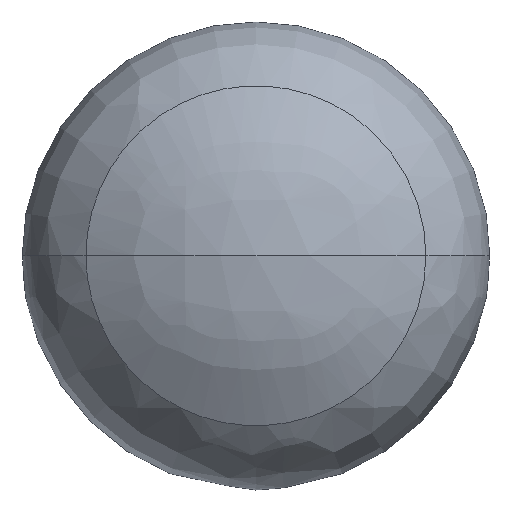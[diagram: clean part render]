
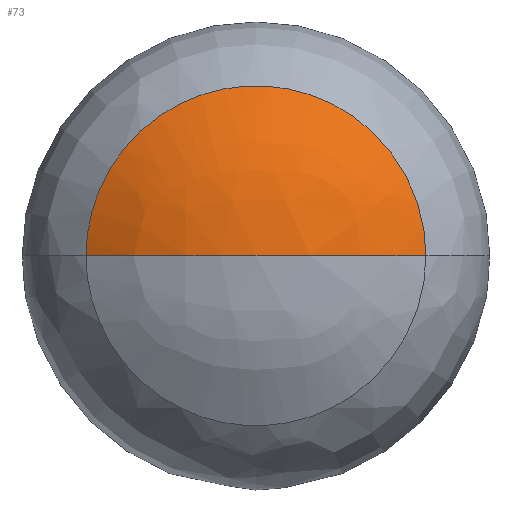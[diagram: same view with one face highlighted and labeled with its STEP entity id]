
A CAD part, top view. The second image highlights one B-rep face of the part: STEP entity #73.
In plain terms, the highlighted free-form (B-spline) face has degree [2, 2] with [9, 5] control points.
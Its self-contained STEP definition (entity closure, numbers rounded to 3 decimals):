
#73=ADVANCED_FACE('',(#278),#2682,.T.);
#278=FACE_OUTER_BOUND('',#483,.T.);
#483=EDGE_LOOP('',(#727,#728,#729));
#727=ORIENTED_EDGE('',*,*,#1563,.T.);
#728=ORIENTED_EDGE('',*,*,#1556,.T.);
#729=ORIENTED_EDGE('',*,*,#1557,.T.);
#1556=EDGE_CURVE('',#2388,#2389,#2122,.T.);
#1557=EDGE_CURVE('',#2389,#2387,#2123,.T.);
#1563=EDGE_CURVE('',#2387,#2388,#2129,.T.);
#2122=(
BOUNDED_CURVE()
B_SPLINE_CURVE(2,(#3735,#3736,#3737),.UNSPECIFIED.,.F.,.F.)
B_SPLINE_CURVE_WITH_KNOTS((3,3),(0.,82.577),.UNSPECIFIED.)
CURVE()
GEOMETRIC_REPRESENTATION_ITEM()
RATIONAL_B_SPLINE_CURVE((1.,0.959,1.))
REPRESENTATION_ITEM('')
);
#2123=(
BOUNDED_CURVE()
B_SPLINE_CURVE(2,(#3738,#3739,#3740),.UNSPECIFIED.,.F.,.F.)
B_SPLINE_CURVE_WITH_KNOTS((3,3),(0.,82.577),.UNSPECIFIED.)
CURVE()
GEOMETRIC_REPRESENTATION_ITEM()
RATIONAL_B_SPLINE_CURVE((1.,0.959,1.))
REPRESENTATION_ITEM('')
);
#2129=(
BOUNDED_CURVE()
B_SPLINE_CURVE(2,(#3762,#3763,#3764,#3765,#3766),.UNSPECIFIED.,.F.,.F.)
B_SPLINE_CURVE_WITH_KNOTS((3,2,3),(-245.243,-122.621,
0.),.UNSPECIFIED.)
CURVE()
GEOMETRIC_REPRESENTATION_ITEM()
RATIONAL_B_SPLINE_CURVE((1.,0.707,1.,0.707,1.))
REPRESENTATION_ITEM('')
);
#2387=VERTEX_POINT('',#3694);
#2388=VERTEX_POINT('',#3695);
#2389=VERTEX_POINT('',#3696);
#2682=(
BOUNDED_SURFACE()
B_SPLINE_SURFACE(2,2,((#3136,#3137,#3138,#3139,#3140),(#3141,#3142,#3143,
#3144,#3145),(#3146,#3147,#3148,#3149,#3150),(#3151,#3152,#3153,#3154,#3155),
(#3156,#3157,#3158,#3159,#3160),(#3161,#3162,#3163,#3164,#3165),(#3166,
#3167,#3168,#3169,#3170),(#3171,#3172,#3173,#3174,#3175),(#3176,#3177,#3178,
#3179,#3180)),.UNSPECIFIED.,.T.,.F.,.F.)
B_SPLINE_SURFACE_WITH_KNOTS((3,2,2,2,3),(3,2,3),(0.,224.624,449.248,
673.872,898.495),(0.,224.624,449.248),
 .UNSPECIFIED.)
GEOMETRIC_REPRESENTATION_ITEM()
RATIONAL_B_SPLINE_SURFACE(((1.,0.707,1.,0.707,1.),
(0.707,0.5,0.707,0.5,0.707),(1.,0.707,
1.,0.707,1.),(0.707,0.5,0.707,0.5,0.707),
(1.,0.707,1.,0.707,1.),(0.707,0.5,0.707,
0.5,0.707),(1.,0.707,1.,0.707,1.),(0.707,
0.5,0.707,0.5,0.707),(1.,0.707,1.,0.707,
1.)))
REPRESENTATION_ITEM('')
SURFACE()
);
#3136=CARTESIAN_POINT('',(0.,-32.743,-100.443));
#3137=CARTESIAN_POINT('',(143.,-32.743,-100.443));
#3138=CARTESIAN_POINT('',(143.,110.257,-100.443));
#3139=CARTESIAN_POINT('',(143.,253.257,-100.443));
#3140=CARTESIAN_POINT('',(0.,253.257,-100.443));
#3141=CARTESIAN_POINT('',(0.,-32.743,-100.443));
#3142=CARTESIAN_POINT('',(143.,-32.743,-243.443));
#3143=CARTESIAN_POINT('',(143.,110.257,-243.443));
#3144=CARTESIAN_POINT('',(143.,253.257,-243.443));
#3145=CARTESIAN_POINT('',(0.,253.257,-100.443));
#3146=CARTESIAN_POINT('',(0.,-32.743,-100.443));
#3147=CARTESIAN_POINT('',(0.,-32.743,-243.443));
#3148=CARTESIAN_POINT('',(0.,110.257,-243.443));
#3149=CARTESIAN_POINT('',(0.,253.257,-243.443));
#3150=CARTESIAN_POINT('',(0.,253.257,-100.443));
#3151=CARTESIAN_POINT('',(0.,-32.743,-100.443));
#3152=CARTESIAN_POINT('',(-143.,-32.743,-243.443));
#3153=CARTESIAN_POINT('',(-143.,110.257,-243.443));
#3154=CARTESIAN_POINT('',(-143.,253.257,-243.443));
#3155=CARTESIAN_POINT('',(0.,253.257,-100.443));
#3156=CARTESIAN_POINT('',(0.,-32.743,-100.443));
#3157=CARTESIAN_POINT('',(-143.,-32.743,-100.443));
#3158=CARTESIAN_POINT('',(-143.,110.257,-100.443));
#3159=CARTESIAN_POINT('',(-143.,253.257,-100.443));
#3160=CARTESIAN_POINT('',(0.,253.257,-100.443));
#3161=CARTESIAN_POINT('',(0.,-32.743,-100.443));
#3162=CARTESIAN_POINT('',(-143.,-32.743,42.557));
#3163=CARTESIAN_POINT('',(-143.,110.257,42.557));
#3164=CARTESIAN_POINT('',(-143.,253.257,42.557));
#3165=CARTESIAN_POINT('',(0.,253.257,-100.443));
#3166=CARTESIAN_POINT('',(0.,-32.743,-100.443));
#3167=CARTESIAN_POINT('',(0.,-32.743,42.557));
#3168=CARTESIAN_POINT('',(0.,110.257,42.557));
#3169=CARTESIAN_POINT('',(0.,253.257,42.557));
#3170=CARTESIAN_POINT('',(0.,253.257,-100.443));
#3171=CARTESIAN_POINT('',(0.,-32.743,-100.443));
#3172=CARTESIAN_POINT('',(143.,-32.743,42.557));
#3173=CARTESIAN_POINT('',(143.,110.257,42.557));
#3174=CARTESIAN_POINT('',(143.,253.257,42.557));
#3175=CARTESIAN_POINT('',(0.,253.257,-100.443));
#3176=CARTESIAN_POINT('',(0.,-32.743,-100.443));
#3177=CARTESIAN_POINT('',(143.,-32.743,-100.443));
#3178=CARTESIAN_POINT('',(143.,110.257,-100.443));
#3179=CARTESIAN_POINT('',(143.,253.257,-100.443));
#3180=CARTESIAN_POINT('',(0.,253.257,-100.443));
#3694=CARTESIAN_POINT('',(78.063,110.257,19.37));
#3695=CARTESIAN_POINT('',(-78.063,110.257,19.37));
#3696=CARTESIAN_POINT('',(0.,110.257,42.557));
#3735=CARTESIAN_POINT('',(-78.063,110.257,19.37));
#3736=CARTESIAN_POINT('',(-42.475,110.257,42.557));
#3737=CARTESIAN_POINT('',(0.,110.257,42.557));
#3738=CARTESIAN_POINT('',(0.,110.257,42.557));
#3739=CARTESIAN_POINT('',(42.475,110.257,42.557));
#3740=CARTESIAN_POINT('',(78.063,110.257,19.37));
#3762=CARTESIAN_POINT('',(78.063,110.257,19.37));
#3763=CARTESIAN_POINT('',(78.063,188.321,19.37));
#3764=CARTESIAN_POINT('',(0.,188.321,19.37));
#3765=CARTESIAN_POINT('',(-78.063,188.321,19.37));
#3766=CARTESIAN_POINT('',(-78.063,110.257,19.37));
